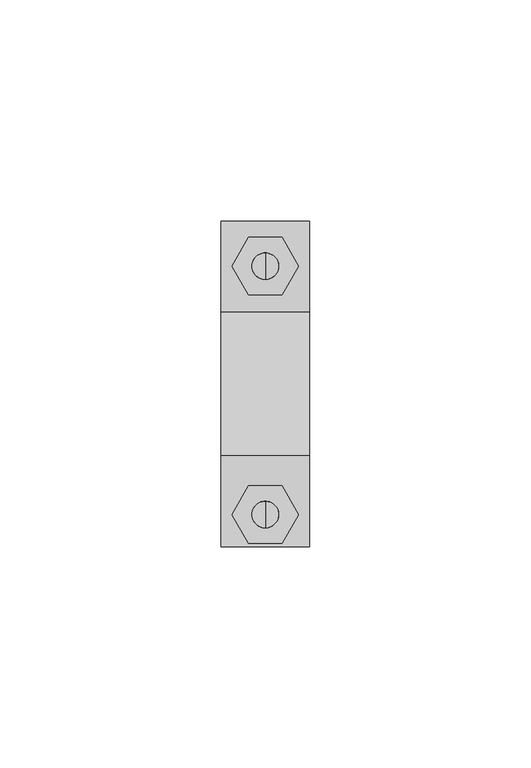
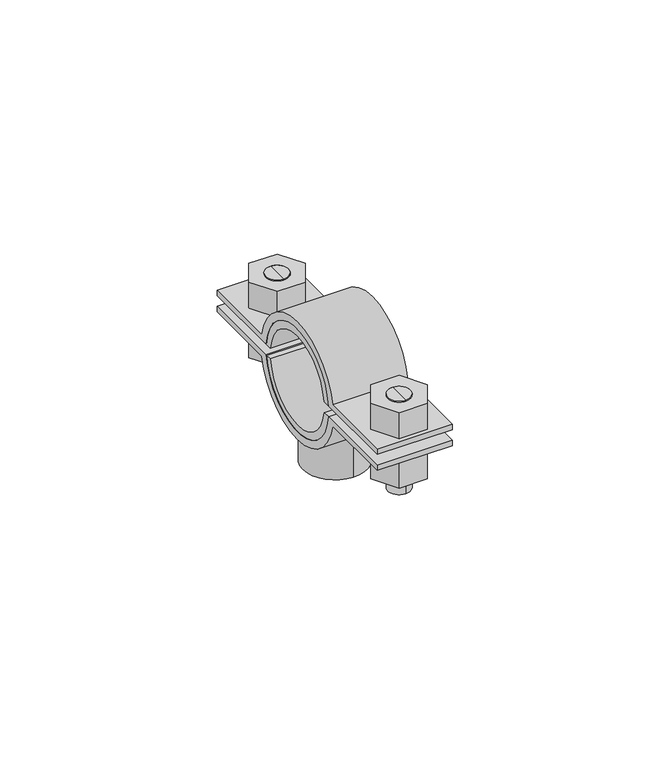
"""IFC4 building model written with IfcOpenShell, lengths in millimetres: valve geometry, Superfix DG2 Clamp Extra (based on pipe) : Superfix DG2 Clamp Extra (based on pipe)."""

from ifc_helpers import new_model, si_unit, point, frame, frame_2d, origin, origin_2d, place, context, project, spatial, polyline, circle_curve, trimmed, segment, composite_curve, outline, extrude, source, transform, mapped, element, save
from ifc_brep_helpers import plane_surface, cylinder_surface, advanced_brep


def valve_84d33304(model_context):
    return source(origin(), model_context, "Body", "SolidModel", [
        advanced_brep(
        [(0.0, 29.625, 342.9002332), (0.0, 23.625, 342.9002332), (0.0, 23.625, 357.0002332), (0.0, 29.625, 357.0002332), (0.0, 26.625, 342.9002332)],
        [
            (0, 1, circle_curve(frame((0.0, 26.625, 342.9002332), z_axis=(0.0, 0.0, 1.0), x_axis=(0.0, 1.0, 0.0)), 3.0)),
            (1, 2),
            (2, 3, circle_curve(frame((0.0, 26.625, 357.0002332), z_axis=(0.0, 0.0, -1.0), x_axis=(0.0, 1.0, 0.0)), 3.0)),
            (3, 0),
            (1, 0, circle_curve(frame((0.0, 26.625, 342.9002332), z_axis=(0.0, 0.0, 1.0), x_axis=(0.0, 1.0, 0.0)), 3.0)),
            (3, 2, circle_curve(frame((0.0, 26.625, 357.0002332), z_axis=(0.0, 0.0, -1.0), x_axis=(0.0, 1.0, 0.0)), 3.0)),
            (0, 4),
            (4, 1),
        ],
        [
            cylinder_surface(frame((0.0, 26.625, 356.7808426), z_axis=(0.0, 0.0, 1.0), x_axis=(0.0, 1.0, 0.0)), 3.0),
            plane_surface(frame((0.0, 26.625, 342.9002332), z_axis=(0.0, 0.0, -1.0), x_axis=(0.0, 1.0, 0.0))),
            plane_surface(frame((13.75, -36.75, 357.0002332), z_axis=(0.0, 0.0, 1.0), x_axis=(-1.0, 0.0, 0.0))),
        ],
        [
            (0, [[1, 2, 3, 4]]),
            (0, [[5, -4, 6, -2]]),
            (1, [[-1, 7, 8]]),
            (1, [[-5, -8, -7]]),
            (2, [[-3, -6]]),
        ],
    ),
        advanced_brep(
        [(0.0, 23.625, 369.1002332), (0.0, 29.625, 369.1002332), (0.0, 29.625, 360.0002332), (0.0, 23.625, 360.0002332), (0.0, 26.625, 369.1002332)],
        [
            (0, 1, circle_curve(frame((0.0, 26.625, 369.1002332), z_axis=(0.0, 0.0, -1.0), x_axis=(0.0, 1.0, 0.0)), 3.0)),
            (1, 2),
            (2, 3, circle_curve(frame((0.0, 26.625, 360.0002332), z_axis=(0.0, 0.0, 1.0), x_axis=(0.0, 1.0, 0.0)), 3.0)),
            (3, 0),
            (1, 0, circle_curve(frame((0.0, 26.625, 369.1002332), z_axis=(0.0, 0.0, -1.0), x_axis=(0.0, 1.0, 0.0)), 3.0)),
            (3, 2, circle_curve(frame((0.0, 26.625, 360.0002332), z_axis=(0.0, 0.0, 1.0), x_axis=(0.0, 1.0, 0.0)), 3.0)),
            (0, 4),
            (4, 1),
        ],
        [
            cylinder_surface(frame((0.0, 26.625, 356.7808426), z_axis=(0.0, 0.0, 1.0), x_axis=(0.0, 1.0, 0.0)), 3.0),
            plane_surface(frame((0.0, 26.625, 369.1002332), z_axis=(0.0, 0.0, 1.0), x_axis=(0.0, 1.0, 0.0))),
            plane_surface(frame((13.75, 36.75, 360.0002332), z_axis=(0.0, 0.0, -1.0), x_axis=(-1.0, 0.0, 0.0))),
        ],
        [
            (0, [[1, 2, 3, 4]]),
            (0, [[5, -4, 6, -2]]),
            (1, [[-1, 7, 8]]),
            (1, [[-5, -8, -7]]),
            (2, [[-3, -6]]),
        ],
    ),
        advanced_brep(
        [(0.0, -32.5, 369.1002332), (0.0, -26.5, 369.1002332), (0.0, -26.5, 360.0002332), (0.0, -32.5, 360.0002332), (0.0, -29.5, 369.1002332)],
        [
            (0, 1, circle_curve(frame((0.0, -29.5, 369.1002332), z_axis=(0.0, 0.0, -1.0), x_axis=(0.0, -1.0, 0.0)), 3.0)),
            (1, 2),
            (2, 3, circle_curve(frame((0.0, -29.5, 360.0002332), z_axis=(0.0, 0.0, 1.0), x_axis=(0.0, -1.0, 0.0)), 3.0)),
            (3, 0),
            (1, 0, circle_curve(frame((0.0, -29.5, 369.1002332), z_axis=(0.0, 0.0, -1.0), x_axis=(0.0, -1.0, 0.0)), 3.0)),
            (3, 2, circle_curve(frame((0.0, -29.5, 360.0002332), z_axis=(0.0, 0.0, 1.0), x_axis=(0.0, -1.0, 0.0)), 3.0)),
            (0, 4),
            (4, 1),
        ],
        [
            cylinder_surface(frame((0.0, -29.5, 356.7808426), z_axis=(0.0, 0.0, -1.0), x_axis=(0.0, -1.0, 0.0)), 3.0),
            plane_surface(frame((0.0, -29.5, 369.1002332), z_axis=(0.0, 0.0, 1.0), x_axis=(0.0, -1.0, 0.0))),
            plane_surface(frame((13.75, 36.75, 360.0002332), z_axis=(0.0, 0.0, -1.0), x_axis=(-1.0, 0.0, 0.0))),
        ],
        [
            (0, [[1, 2, 3, 4]]),
            (0, [[5, -4, 6, -2]]),
            (1, [[-1, 7, 8]]),
            (1, [[-5, -8, -7]]),
            (2, [[-3, -6]]),
        ],
    ),
        advanced_brep(
        [(0.0, -26.5, 342.9002332), (0.0, -32.5, 342.9002332), (0.0, -32.5, 357.0002332), (0.0, -26.5, 357.0002332), (0.0, -29.5, 342.9002332)],
        [
            (0, 1, circle_curve(frame((0.0, -29.5, 342.9002332), z_axis=(0.0, 0.0, 1.0), x_axis=(0.0, -1.0, 0.0)), 3.0)),
            (1, 2),
            (2, 3, circle_curve(frame((0.0, -29.5, 357.0002332), z_axis=(0.0, 0.0, -1.0), x_axis=(0.0, -1.0, 0.0)), 3.0)),
            (3, 0),
            (1, 0, circle_curve(frame((0.0, -29.5, 342.9002332), z_axis=(0.0, 0.0, 1.0), x_axis=(0.0, -1.0, 0.0)), 3.0)),
            (3, 2, circle_curve(frame((0.0, -29.5, 357.0002332), z_axis=(0.0, 0.0, -1.0), x_axis=(0.0, -1.0, 0.0)), 3.0)),
            (0, 4),
            (4, 1),
        ],
        [
            cylinder_surface(frame((0.0, -29.5, 356.7808426), z_axis=(0.0, 0.0, -1.0), x_axis=(0.0, -1.0, 0.0)), 3.0),
            plane_surface(frame((0.0, -29.5, 342.9002332), z_axis=(0.0, 0.0, -1.0), x_axis=(0.0, -1.0, 0.0))),
            plane_surface(frame((13.75, -36.75, 357.0002332), z_axis=(0.0, 0.0, 1.0), x_axis=(-1.0, 0.0, 0.0))),
        ],
        [
            (0, [[1, 2, 3, 4]]),
            (0, [[5, -4, 6, -2]]),
            (1, [[-1, 7, 8]]),
            (1, [[-5, -8, -7]]),
            (2, [[-3, -6]]),
        ],
    ),
        extrude(outline(composite_curve([segment(trimmed(circle_curve(frame_2d((0.0, 358.5002332)), 14.5), [point((-14.4222051, 357.0002332))], [point((14.4222051, 357.0002332))], True, "CARTESIAN"), True, "CONTINUOUS"), segment(polyline([(14.4222051, 357.0002332), (36.75, 357.0002332), (36.75, 355.5002332), (16.2249807, 355.5002332)]), True, "CONTINUOUS"), segment(trimmed(circle_curve(frame_2d((0.0, 358.5002332)), 16.5), [point((16.2249807, 355.5002332))], [point((-16.2249807, 355.5002332))], False, "CARTESIAN"), True, "CONTINUOUS"), segment(polyline([(-16.2249807, 355.5002332), (-36.75, 355.5002332), (-36.75, 357.0002332), (-14.4222051, 357.0002332)]), True, "CONTINUOUS")], self_intersect=False)), frame((-10.0, 0.0, 0.0), z_axis=(1.0, 0.0, 0.0), x_axis=(0.0, 1.0, 0.0)), (0.0, 0.0, 1.0), 20.0),
        extrude(outline(composite_curve([segment(trimmed(circle_curve(frame_2d((0.0, 358.5002332)), 14.5), [point((14.4222051, 360.0002332))], [point((-14.4222051, 360.0002332))], True, "CARTESIAN"), True, "CONTINUOUS"), segment(polyline([(-14.4222051, 360.0002332), (-36.75, 360.0002332), (-36.75, 361.5002332), (-16.2249807, 361.5002332)]), True, "CONTINUOUS"), segment(trimmed(circle_curve(frame_2d((0.0, 358.5002332)), 16.5), [point((-16.2249807, 361.5002332))], [point((16.2249807, 361.5002332))], False, "CARTESIAN"), True, "CONTINUOUS"), segment(polyline([(16.2249807, 361.5002332), (36.75, 361.5002332), (36.75, 360.0002332), (14.4222051, 360.0002332)]), True, "CONTINUOUS")], self_intersect=False)), frame((-10.0, 0.0, 0.0), z_axis=(1.0, 0.0, 0.0), x_axis=(0.0, 1.0, 0.0)), (0.0, 0.0, 1.0), 20.0),
        extrude(outline(polyline([(7.5055535, -29.5), (3.7527767, -36.0), (-3.7527767, -36.0), (-7.5055535, -29.5), (-3.7527767, -23.0), (3.7527767, -23.0), (7.5055535, -29.5)]), holes=[composite_curve([segment(trimmed(circle_curve(frame_2d((0.0, -29.5)), 3.0), [point((3.0, -29.5))], [point((-3.0, -29.5))], True, "CARTESIAN"), True, "CONTINUOUS"), segment(trimmed(circle_curve(frame_2d((0.0, -29.5)), 3.0), [point((-3.0, -29.5))], [point((3.0, -29.5))], True, "CARTESIAN"), True, "CONTINUOUS")], self_intersect=False)]), frame((0.0, 0.0, 361.5002332), z_axis=(0.0, 0.0, 1.0), x_axis=(1.0, 0.0, 0.0)), (0.0, 0.0, 1.0), 7.6),
        extrude(outline(polyline([(7.5055535, 26.625), (3.7527767, 20.125), (-3.7527767, 20.125), (-7.5055535, 26.625), (-3.7527767, 33.125), (3.7527767, 33.125), (7.5055535, 26.625)]), holes=[composite_curve([segment(trimmed(circle_curve(frame_2d((0.0, 26.625)), 3.0), [point((3.0, 26.625))], [point((-3.0, 26.625))], True, "CARTESIAN"), True, "CONTINUOUS"), segment(trimmed(circle_curve(frame_2d((0.0, 26.625)), 3.0), [point((-3.0, 26.625))], [point((3.0, 26.625))], True, "CARTESIAN"), True, "CONTINUOUS")], self_intersect=False)]), frame((0.0, 0.0, 361.5002332), z_axis=(0.0, 0.0, 1.0), x_axis=(1.0, 0.0, 0.0)), (0.0, 0.0, 1.0), 7.6),
        extrude(outline(polyline([(7.5055535, -29.5), (3.7527767, -36.0), (-3.7527767, -36.0), (-7.5055535, -29.5), (-3.7527767, -23.0), (3.7527767, -23.0), (7.5055535, -29.5)]), holes=[composite_curve([segment(trimmed(circle_curve(frame_2d((0.0, -29.5)), 3.0), [point((3.0, -29.5))], [point((-3.0, -29.5))], True, "CARTESIAN"), True, "CONTINUOUS"), segment(trimmed(circle_curve(frame_2d((0.0, -29.5)), 3.0), [point((-3.0, -29.5))], [point((3.0, -29.5))], True, "CARTESIAN"), True, "CONTINUOUS")], self_intersect=False)]), frame((0.0, 0.0, 347.9002332), z_axis=(0.0, 0.0, 1.0), x_axis=(1.0, 0.0, 0.0)), (0.0, 0.0, 1.0), 7.6),
        extrude(outline(polyline([(7.5055535, 26.625), (3.7527767, 20.125), (-3.7527767, 20.125), (-7.5055535, 26.625), (-3.7527767, 33.125), (3.7527767, 33.125), (7.5055535, 26.625)]), holes=[composite_curve([segment(trimmed(circle_curve(frame_2d((0.0, 26.625)), 3.0), [point((3.0, 26.625))], [point((-3.0, 26.625))], True, "CARTESIAN"), True, "CONTINUOUS"), segment(trimmed(circle_curve(frame_2d((0.0, 26.625)), 3.0), [point((-3.0, 26.625))], [point((3.0, 26.625))], True, "CARTESIAN"), True, "CONTINUOUS")], self_intersect=False)]), frame((0.0, 0.0, 347.9002332), z_axis=(0.0, 0.0, 1.0), x_axis=(1.0, 0.0, 0.0)), (0.0, 0.0, 1.0), 7.6),
        extrude(outline(composite_curve([segment(trimmed(circle_curve(origin_2d(), 8.5), [point((0.0, 8.5))], [point((0.0, -8.5))], False, "CARTESIAN"), True, "CONTINUOUS"), segment(trimmed(circle_curve(origin_2d(), 8.5), [point((0.0, -8.5))], [point((0.0, 8.5))], False, "CARTESIAN"), True, "CONTINUOUS")], self_intersect=False), holes=[composite_curve([segment(trimmed(circle_curve(origin_2d(), 5.0), [point((0.0, 5.0))], [point((0.0, -5.0))], True, "CARTESIAN"), True, "CONTINUOUS"), segment(trimmed(circle_curve(origin_2d(), 5.0), [point((0.0, -5.0))], [point((0.0, 5.0))], True, "CARTESIAN"), True, "CONTINUOUS")], self_intersect=False)]), frame((0.0, 0.0, 333.0002332), z_axis=(0.0, 0.0, 1.0), x_axis=(1.0, 0.0, 0.0)), (0.0, 0.0, 1.0), 11.5),
        extrude(outline(composite_curve([segment(trimmed(circle_curve(frame_2d((0.0, 358.5002332)), 12.5), [point((12.4096736, 360.0002332))], [point((-12.4096736, 360.0002332))], True, "CARTESIAN"), True, "CONTINUOUS"), segment(polyline([(-12.4096736, 360.0002332), (-14.4222051, 360.0002332)]), True, "CONTINUOUS"), segment(trimmed(circle_curve(frame_2d((0.0, 358.5002332)), 14.5), [point((-14.4222051, 360.0002332))], [point((14.4222051, 360.0002332))], False, "CARTESIAN"), True, "CONTINUOUS"), segment(polyline([(14.4222051, 360.0002332), (12.4096736, 360.0002332)]), True, "CONTINUOUS")], self_intersect=False)), frame((-10.0, 0.0, 0.0), z_axis=(1.0, 0.0, 0.0), x_axis=(0.0, 1.0, 0.0)), (0.0, 0.0, 1.0), 20.0),
        extrude(outline(composite_curve([segment(polyline([(12.4096736, 357.0002332), (14.4222051, 357.0002332)]), True, "CONTINUOUS"), segment(trimmed(circle_curve(frame_2d((0.0, 358.5002332)), 14.5), [point((14.4222051, 357.0002332))], [point((-14.4222051, 357.0002332))], False, "CARTESIAN"), True, "CONTINUOUS"), segment(polyline([(-14.4222051, 357.0002332), (-12.4096736, 357.0002332)]), True, "CONTINUOUS"), segment(trimmed(circle_curve(frame_2d((0.0, 358.5002332)), 12.5), [point((-12.4096736, 357.0002332))], [point((12.4096736, 357.0002332))], True, "CARTESIAN"), True, "CONTINUOUS")], self_intersect=False)), frame((-10.0, 0.0, 0.0), z_axis=(1.0, 0.0, 0.0), x_axis=(0.0, 1.0, 0.0)), (0.0, 0.0, 1.0), 20.0),
    ])


if __name__ == "__main__":
    model = new_model("IFC4")
    model_context = context("Model", 3, world=origin())
    ifc_project = project(units=[si_unit("LENGTHUNIT", "METRE", prefix="MILLI")], contexts=[model_context])
    site = spatial("IfcSite", under=ifc_project)
    building = spatial("IfcBuilding", under=site)
    placement = place(None, origin())
    valve_shape = valve_84d33304(model_context)
    element("IfcValve", 1, ObjectType="Superfix DG2 Clamp Extra (based on pipe) : Superfix DG2 Clamp Extra (based on pipe)", at=placement, inside=building, context=model_context, shape_type="MappedRepresentation", body=[
        mapped(valve_shape, transform((0.0, 0.0, 0.0), x_axis=(1.0, 0.0, 0.0), y_axis=(0.0, 1.0, 0.0), z_axis=(0.0, 0.0, 1.0))),
    ])
    save(model, "model.ifc")
